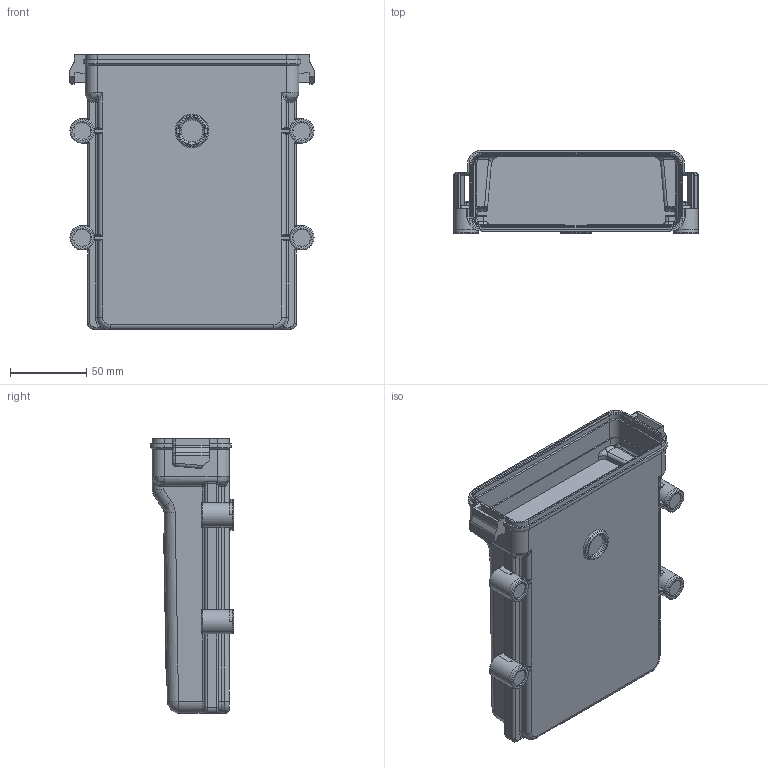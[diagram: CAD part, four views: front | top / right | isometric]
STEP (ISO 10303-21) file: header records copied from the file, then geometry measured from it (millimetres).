
FILE_DESCRIPTION((''),'2;1');
FILE_NAME('C-EEC-5X650B','2013-06-13T',('workeradm'),('Tyco Electronics Ltd.'),'PRO/ENGINEER BY PARAMETRIC TECHNOLOGY CORPORATION, 2011490','PRO/ENGINEER BY PARAMETRIC TECHNOLOGY CORPORATION, 2011490','');
FILE_SCHEMA(('AUTOMOTIVE_DESIGN { 1 0 10303 214 1 1 1 1 }'));
Length unit declared in the file: millimetre
Products named in the file (1): C-EEC-5X650B
Bounding box: 160 x 54.44 x 180 mm (x, y, z)
Volume: 822003 mm3; surface area: 92727.3 mm2
Topology: 1 solids, 1 shells, 610 faces, 1481 edges, 883 vertices
Faces by surface type: cylinder 238, plane 186, torus 92, bspline 72, cone 12, sphere 10
Entity records: 21810 total; most frequent: CARTESIAN_POINT 7605, ORIENTED_EDGE 2962, DIRECTION 2875, EDGE_CURVE 1481, AXIS2_PLACEMENT_3D 1086, VERTEX_POINT 883, VECTOR 703, LINE 703
